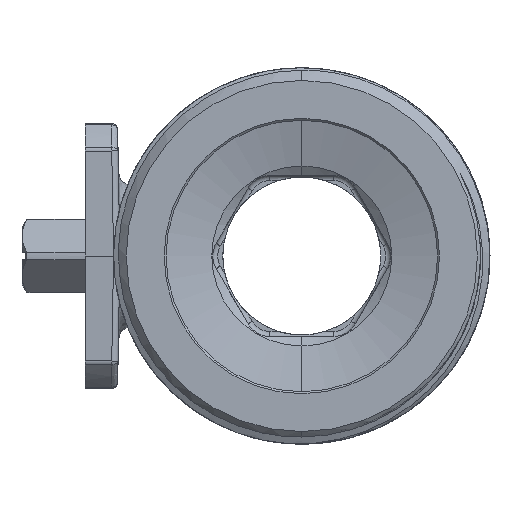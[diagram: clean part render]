
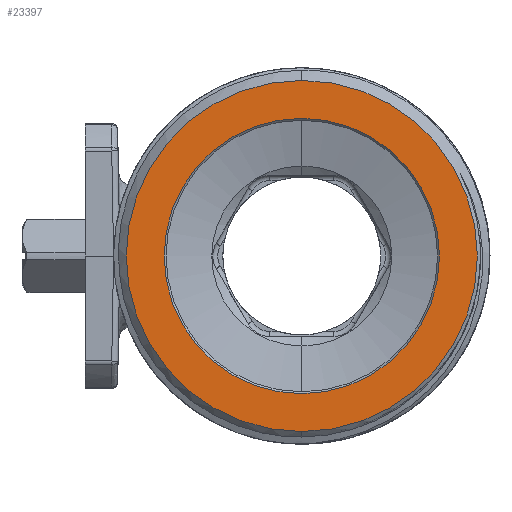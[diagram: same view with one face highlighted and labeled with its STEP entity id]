
A CAD part, left-side view. The second image highlights one B-rep face of the part: STEP entity #23397.
In plain terms, the highlighted planar face has unit normal (-1, 0, 0).
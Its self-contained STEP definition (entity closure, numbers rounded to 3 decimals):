
#1640=CARTESIAN_POINT('',(-50.,0.,0.));
#1641=DIRECTION('',(1.,0.,0.));
#1642=DIRECTION('',(0.,0.,1.));
#1643=AXIS2_PLACEMENT_3D('',#1640,#1641,#1642);
#2370=CARTESIAN_POINT('',(-50.,0.,0.));
#2371=DIRECTION('',(-1.,0.,0.));
#2372=DIRECTION('',(0.,0.,1.));
#2373=AXIS2_PLACEMENT_3D('',#2370,#2371,#2372);
#2379=CARTESIAN_POINT('',(-50.,0.,0.));
#2380=DIRECTION('',(1.,0.,0.));
#2381=DIRECTION('',(0.,0.,1.));
#2382=AXIS2_PLACEMENT_3D('',#2379,#2380,#2381);
#2384=CARTESIAN_POINT('',(-50.,0.,0.));
#2385=DIRECTION('',(-1.,0.,0.));
#2386=DIRECTION('',(0.,0.,1.));
#2387=AXIS2_PLACEMENT_3D('',#2384,#2385,#2386);
#19660=CARTESIAN_POINT('',(-50.,0.,21.8));
#19661=VERTEX_POINT('',#19660);
#19668=CARTESIAN_POINT('',(-50.,0.,-21.8));
#19669=VERTEX_POINT('',#19668);
#19670=CARTESIAN_POINT('',(-50.,0.,27.8));
#19671=CARTESIAN_POINT('',(-50.,0.,-27.8));
#19672=VERTEX_POINT('',#19670);
#19673=VERTEX_POINT('',#19671);
#23382=CARTESIAN_POINT('',(-50.,0.,0.));
#23383=DIRECTION('',(1.,0.,0.));
#23384=DIRECTION('',(0.,0.,-1.));
#23385=AXIS2_PLACEMENT_3D('',#23382,#23383,#23384);
#23386=PLANE('',#23385);
#23387=ORIENTED_EDGE('',*,*,#23376,.F.);
#23388=ORIENTED_EDGE('',*,*,#22585,.T.);
#23389=EDGE_LOOP('',(#23387,#23388));
#23390=FACE_OUTER_BOUND('',#23389,.F.);
#23392=ORIENTED_EDGE('',*,*,#23391,.F.);
#23394=ORIENTED_EDGE('',*,*,#23393,.T.);
#23395=EDGE_LOOP('',(#23392,#23394));
#23396=FACE_BOUND('',#23395,.F.);
#1644=CIRCLE('',#1643,27.8);
#2374=CIRCLE('',#2373,27.8);
#2383=CIRCLE('',#2382,21.8);
#2388=CIRCLE('',#2387,21.8);
#22585=EDGE_CURVE('',#19672,#19673,#1644,.T.);
#23376=EDGE_CURVE('',#19672,#19673,#2374,.T.);
#23391=EDGE_CURVE('',#19661,#19669,#2383,.T.);
#23393=EDGE_CURVE('',#19661,#19669,#2388,.T.);
#23397=ADVANCED_FACE('',(#23390,#23396),#23386,.F.);
